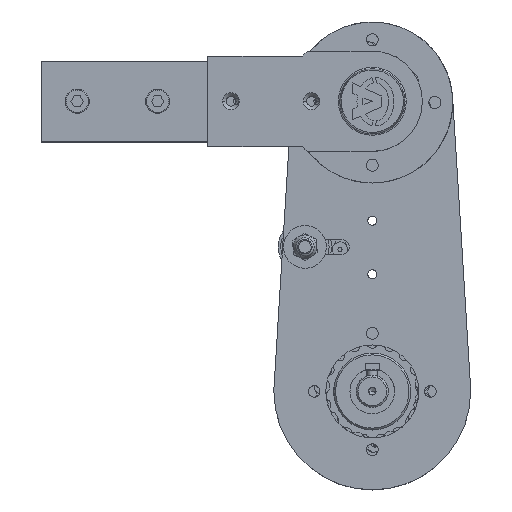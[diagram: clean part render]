
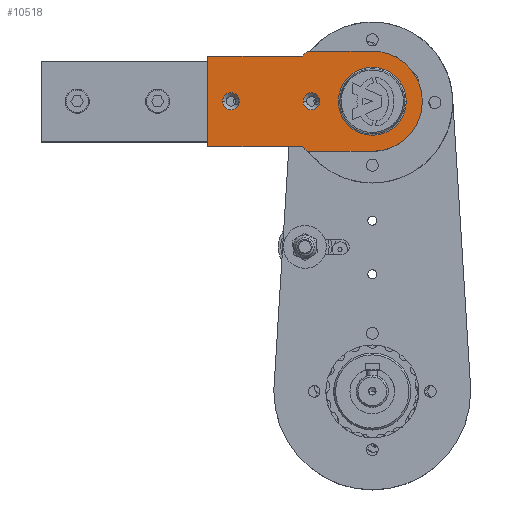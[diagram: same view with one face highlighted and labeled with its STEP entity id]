
A CAD part, top view. The second image highlights one B-rep face of the part: STEP entity #10518.
In plain terms, the highlighted planar face has unit normal (0, 0, 1).
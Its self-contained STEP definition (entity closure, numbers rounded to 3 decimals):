
#100 = DIRECTION ( 'NONE',  ( 0., 0., 1. ) ) ;
#1184 = VERTEX_POINT ( 'NONE', #56875 ) ;
#1537 = VERTEX_POINT ( 'NONE', #30393 ) ;
#1948 = ORIENTED_EDGE ( 'NONE', *, *, #25818, .F. ) ;
#2019 = EDGE_CURVE ( 'NONE', #55437, #27623, #21107, .T. ) ;
#2357 = CARTESIAN_POINT ( 'NONE',  ( 79., 0., 37. ) ) ;
#2751 = VERTEX_POINT ( 'NONE', #24663 ) ;
#2865 = EDGE_CURVE ( 'NONE', #18814, #13506, #37002, .T. ) ;
#2972 = EDGE_LOOP ( 'NONE', ( #64889, #9718, #3334, #50641, #64292, #51028, #57496, #55665, #72008 ) ) ;
#3164 = CARTESIAN_POINT ( 'NONE',  ( 0., -28., 37. ) ) ;
#3225 = CARTESIAN_POINT ( 'NONE',  ( -28., 0., 37. ) ) ;
#3334 = ORIENTED_EDGE ( 'NONE', *, *, #63095, .T. ) ;
#6533 = CARTESIAN_POINT ( 'NONE',  ( 92., -25.25, 37. ) ) ;
#7200 = CARTESIAN_POINT ( 'NONE',  ( 0., 28., 37. ) ) ;
#7902 = VECTOR ( 'NONE', #51776, 1000. ) ;
#8031 = EDGE_LOOP ( 'NONE', ( #28895, #22009 ) ) ;
#8658 = DIRECTION ( 'NONE',  ( 0.707, 0.707, 0. ) ) ;
#9204 = VERTEX_POINT ( 'NONE', #29467 ) ;
#9405 = EDGE_CURVE ( 'NONE', #61654, #51876, #76959, .T. ) ;
#9718 = ORIENTED_EDGE ( 'NONE', *, *, #23643, .T. ) ;
#10047 = VECTOR ( 'NONE', #67803, 1000. ) ;
#10489 = CARTESIAN_POINT ( 'NONE',  ( 92., -25.25, 37. ) ) ;
#10518 = ADVANCED_FACE ( 'NONE', ( #37321, #35285, #18143, #62674 ), #46932, .T. ) ;
#10686 = CIRCLE ( 'NONE', #50022, 4.7 ) ;
#11036 = VERTEX_POINT ( 'NONE', #46298 ) ;
#11109 = LINE ( 'NONE', #56398, #64746 ) ;
#11433 = VERTEX_POINT ( 'NONE', #37833 ) ;
#13506 = VERTEX_POINT ( 'NONE', #64674 ) ;
#14630 = CARTESIAN_POINT ( 'NONE',  ( 83.7, 0., 37. ) ) ;
#14796 = DIRECTION ( 'NONE',  ( 0., 0., 1. ) ) ;
#15259 = CARTESIAN_POINT ( 'NONE',  ( 79., 0., 37. ) ) ;
#15403 = DIRECTION ( 'NONE',  ( 1., 0., 0. ) ) ;
#16847 = AXIS2_PLACEMENT_3D ( 'NONE', #65644, #40198, #53744 ) ;
#17683 = DIRECTION ( 'NONE',  ( 0., 1., 0. ) ) ;
#18143 = FACE_BOUND ( 'NONE', #31153, .T. ) ;
#18814 = VERTEX_POINT ( 'NONE', #3225 ) ;
#21107 = LINE ( 'NONE', #6533, #7902 ) ;
#22007 = CARTESIAN_POINT ( 'NONE',  ( 36.25, -28., 37. ) ) ;
#22009 = ORIENTED_EDGE ( 'NONE', *, *, #54327, .T. ) ;
#22403 = CIRCLE ( 'NONE', #70839, 4.7 ) ;
#22821 = DIRECTION ( 'NONE',  ( 0., 0., -1. ) ) ;
#23643 = EDGE_CURVE ( 'NONE', #9204, #29804, #82085, .T. ) ;
#24663 = CARTESIAN_POINT ( 'NONE',  ( 39., 25.25, 37. ) ) ;
#24865 = DIRECTION ( 'NONE',  ( 0., 0., 1. ) ) ;
#25818 = EDGE_CURVE ( 'NONE', #51876, #61654, #22403, .T. ) ;
#26941 = DIRECTION ( 'NONE',  ( 1., 0., 0. ) ) ;
#27540 = EDGE_CURVE ( 'NONE', #13506, #61904, #47566, .T. ) ;
#27560 = DIRECTION ( 'NONE',  ( -1., 0., 0. ) ) ;
#27623 = VERTEX_POINT ( 'NONE', #10489 ) ;
#28166 = EDGE_CURVE ( 'NONE', #2751, #9204, #38377, .T. ) ;
#28453 = CARTESIAN_POINT ( 'NONE',  ( 0., 0., 37. ) ) ;
#28895 = ORIENTED_EDGE ( 'NONE', *, *, #83725, .T. ) ;
#29307 = DIRECTION ( 'NONE',  ( 0., 0., 1. ) ) ;
#29467 = CARTESIAN_POINT ( 'NONE',  ( 36.25, 28., 37. ) ) ;
#29804 = VERTEX_POINT ( 'NONE', #60189 ) ;
#29945 = EDGE_CURVE ( 'NONE', #1537, #83710, #10686, .T. ) ;
#30393 = CARTESIAN_POINT ( 'NONE',  ( 74.3, 0., 37. ) ) ;
#31153 = EDGE_LOOP ( 'NONE', ( #56025, #39898 ) ) ;
#31423 = AXIS2_PLACEMENT_3D ( 'NONE', #33410, #14796, #26941 ) ;
#33410 = CARTESIAN_POINT ( 'NONE',  ( 0., 0., 37. ) ) ;
#34513 = DIRECTION ( 'NONE',  ( -1., 0., 0. ) ) ;
#35285 = FACE_BOUND ( 'NONE', #49549, .T. ) ;
#35828 = CARTESIAN_POINT ( 'NONE',  ( 36.25, 28., 37. ) ) ;
#36542 = AXIS2_PLACEMENT_3D ( 'NONE', #63597, #24865, #76844 ) ;
#37002 = CIRCLE ( 'NONE', #31423, 28. ) ;
#37029 = EDGE_CURVE ( 'NONE', #11433, #2751, #76195, .T. ) ;
#37321 = FACE_BOUND ( 'NONE', #8031, .T. ) ;
#37833 = CARTESIAN_POINT ( 'NONE',  ( 92., 25.25, 37. ) ) ;
#38377 = LINE ( 'NONE', #35828, #10047 ) ;
#39898 = ORIENTED_EDGE ( 'NONE', *, *, #29945, .F. ) ;
#40198 = DIRECTION ( 'NONE',  ( 0., 0., 1. ) ) ;
#40392 = CIRCLE ( 'NONE', #73450, 4.7 ) ;
#40407 = CIRCLE ( 'NONE', #67264, 18.996 ) ;
#41161 = CARTESIAN_POINT ( 'NONE',  ( 38.7, 0., 37. ) ) ;
#41245 = DIRECTION ( 'NONE',  ( 0., 0., -1. ) ) ;
#41640 = CARTESIAN_POINT ( 'NONE',  ( 36.25, -28., 37. ) ) ;
#42049 = CARTESIAN_POINT ( 'NONE',  ( 0., 0., 37. ) ) ;
#43954 = CIRCLE ( 'NONE', #49490, 18.996 ) ;
#46298 = CARTESIAN_POINT ( 'NONE',  ( -18.996, 0., 37. ) ) ;
#46932 = PLANE ( 'NONE',  #16847 ) ;
#47566 = LINE ( 'NONE', #3164, #53612 ) ;
#47581 = DIRECTION ( 'NONE',  ( 0., 0., 1. ) ) ;
#49490 = AXIS2_PLACEMENT_3D ( 'NONE', #28453, #22821, #80967 ) ;
#49549 = EDGE_LOOP ( 'NONE', ( #1948, #73520 ) ) ;
#49734 = VECTOR ( 'NONE', #27560, 1000. ) ;
#50022 = AXIS2_PLACEMENT_3D ( 'NONE', #2357, #47581, #15403 ) ;
#50354 = AXIS2_PLACEMENT_3D ( 'NONE', #71278, #100, #51781 ) ;
#50641 = ORIENTED_EDGE ( 'NONE', *, *, #2865, .T. ) ;
#51028 = ORIENTED_EDGE ( 'NONE', *, *, #83659, .T. ) ;
#51776 = DIRECTION ( 'NONE',  ( 1., 0., 0. ) ) ;
#51781 = DIRECTION ( 'NONE',  ( 1., 0., 0. ) ) ;
#51876 = VERTEX_POINT ( 'NONE', #41161 ) ;
#52027 = EDGE_CURVE ( 'NONE', #27623, #11433, #11109, .T. ) ;
#52441 = CARTESIAN_POINT ( 'NONE',  ( 29.3, 0., 37. ) ) ;
#52823 = CARTESIAN_POINT ( 'NONE',  ( 39., -25.25, 37. ) ) ;
#53580 = DIRECTION ( 'NONE',  ( 0., 0., 1. ) ) ;
#53612 = VECTOR ( 'NONE', #73576, 1000. ) ;
#53744 = DIRECTION ( 'NONE',  ( 1., 0., 0. ) ) ;
#54327 = EDGE_CURVE ( 'NONE', #11036, #1184, #40407, .T. ) ;
#55437 = VERTEX_POINT ( 'NONE', #52823 ) ;
#55665 = ORIENTED_EDGE ( 'NONE', *, *, #52027, .T. ) ;
#56025 = ORIENTED_EDGE ( 'NONE', *, *, #57526, .F. ) ;
#56398 = CARTESIAN_POINT ( 'NONE',  ( 92., 25.25, 37. ) ) ;
#56875 = CARTESIAN_POINT ( 'NONE',  ( 18.996, 0., 37. ) ) ;
#57496 = ORIENTED_EDGE ( 'NONE', *, *, #2019, .T. ) ;
#57526 = EDGE_CURVE ( 'NONE', #83710, #1537, #40392, .T. ) ;
#58211 = CIRCLE ( 'NONE', #36542, 28. ) ;
#59165 = LINE ( 'NONE', #22007, #76318 ) ;
#59536 = DIRECTION ( 'NONE',  ( 1., 0., 0. ) ) ;
#59810 = CARTESIAN_POINT ( 'NONE',  ( 34., 0., 37. ) ) ;
#60189 = CARTESIAN_POINT ( 'NONE',  ( 0., 28., 37. ) ) ;
#60503 = DIRECTION ( 'NONE',  ( 1., 0., 0. ) ) ;
#61654 = VERTEX_POINT ( 'NONE', #52441 ) ;
#61904 = VERTEX_POINT ( 'NONE', #41640 ) ;
#62674 = FACE_OUTER_BOUND ( 'NONE', #2972, .T. ) ;
#63095 = EDGE_CURVE ( 'NONE', #29804, #18814, #58211, .T. ) ;
#63597 = CARTESIAN_POINT ( 'NONE',  ( 0., 0., 37. ) ) ;
#64292 = ORIENTED_EDGE ( 'NONE', *, *, #27540, .T. ) ;
#64674 = CARTESIAN_POINT ( 'NONE',  ( 0., -28., 37. ) ) ;
#64746 = VECTOR ( 'NONE', #17683, 1000. ) ;
#64889 = ORIENTED_EDGE ( 'NONE', *, *, #28166, .T. ) ;
#65644 = CARTESIAN_POINT ( 'NONE',  ( 0., 0., 37. ) ) ;
#66104 = VECTOR ( 'NONE', #34513, 1000. ) ;
#66773 = CARTESIAN_POINT ( 'NONE',  ( 39., 25.25, 37. ) ) ;
#67264 = AXIS2_PLACEMENT_3D ( 'NONE', #42049, #41245, #68044 ) ;
#67803 = DIRECTION ( 'NONE',  ( -0.707, 0.707, 0. ) ) ;
#68044 = DIRECTION ( 'NONE',  ( 1., 0., 0. ) ) ;
#70839 = AXIS2_PLACEMENT_3D ( 'NONE', #59810, #53580, #59536 ) ;
#71278 = CARTESIAN_POINT ( 'NONE',  ( 34., 0., 37. ) ) ;
#72008 = ORIENTED_EDGE ( 'NONE', *, *, #37029, .T. ) ;
#73450 = AXIS2_PLACEMENT_3D ( 'NONE', #15259, #29307, #60503 ) ;
#73520 = ORIENTED_EDGE ( 'NONE', *, *, #9405, .F. ) ;
#73576 = DIRECTION ( 'NONE',  ( 1., 0., 0. ) ) ;
#76195 = LINE ( 'NONE', #66773, #66104 ) ;
#76318 = VECTOR ( 'NONE', #8658, 1000. ) ;
#76844 = DIRECTION ( 'NONE',  ( 1., 0., 0. ) ) ;
#76959 = CIRCLE ( 'NONE', #50354, 4.7 ) ;
#80967 = DIRECTION ( 'NONE',  ( 1., 0., 0. ) ) ;
#82085 = LINE ( 'NONE', #7200, #49734 ) ;
#83659 = EDGE_CURVE ( 'NONE', #61904, #55437, #59165, .T. ) ;
#83710 = VERTEX_POINT ( 'NONE', #14630 ) ;
#83725 = EDGE_CURVE ( 'NONE', #1184, #11036, #43954, .T. ) ;
